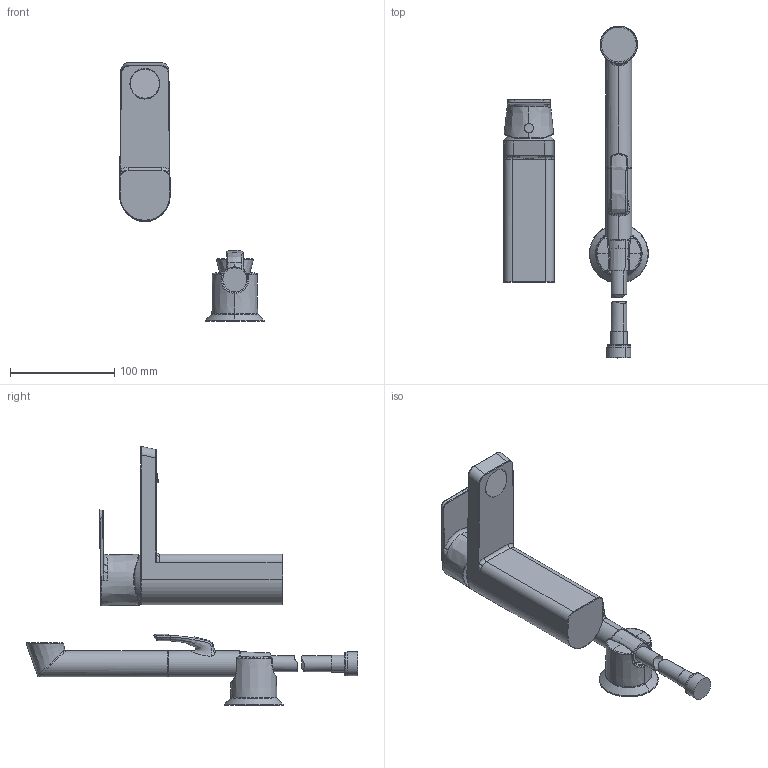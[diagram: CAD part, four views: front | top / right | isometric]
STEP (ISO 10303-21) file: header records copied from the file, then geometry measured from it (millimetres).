
FILE_DESCRIPTION (( 'STEP AP203' ), '1' );
FILE_NAME ('4806F(2021).STEP', '2020-10-30T11:20:38', ( '' ), ( '' ), 'SwSTEP 2.0', 'SolidWorks 2016', '' );
FILE_SCHEMA (( 'CONFIG_CONTROL_DESIGN' ));
Length unit declared in the file: millimetre
Products named in the file (1): 4806F(2021)
Bounding box: 138.8 x 318.16 x 248.1 mm (x, y, z)
Volume: 636862.9 mm3; surface area: 98221.7 mm2
Topology: 9 solids, 9 shells, 233 faces, 564 edges, 356 vertices
Faces by surface type: bspline 103, cylinder 44, plane 33, torus 32, cone 14, sphere 7
Entity records: 28999 total; most frequent: CARTESIAN_POINT 24284, ORIENTED_EDGE 1124, DIRECTION 725, EDGE_CURVE 562, VERTEX_POINT 355, AXIS2_PLACEMENT_3D 309, B_SPLINE_CURVE_WITH_KNOTS 260, EDGE_LOOP 241
